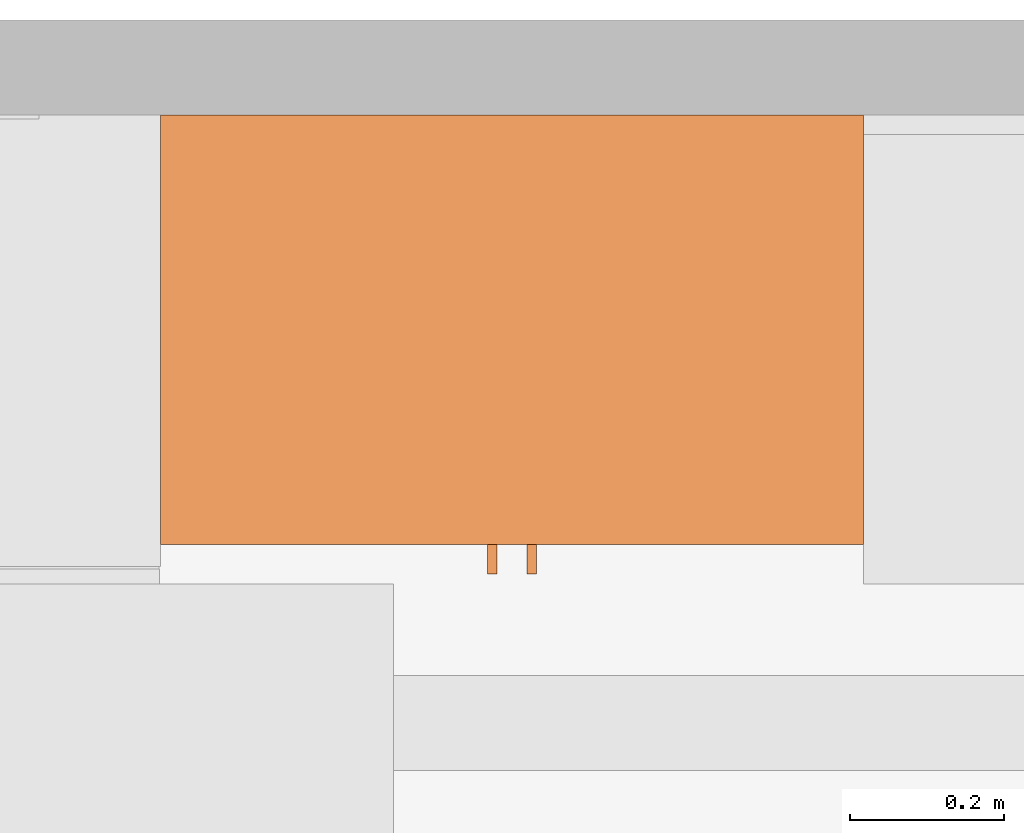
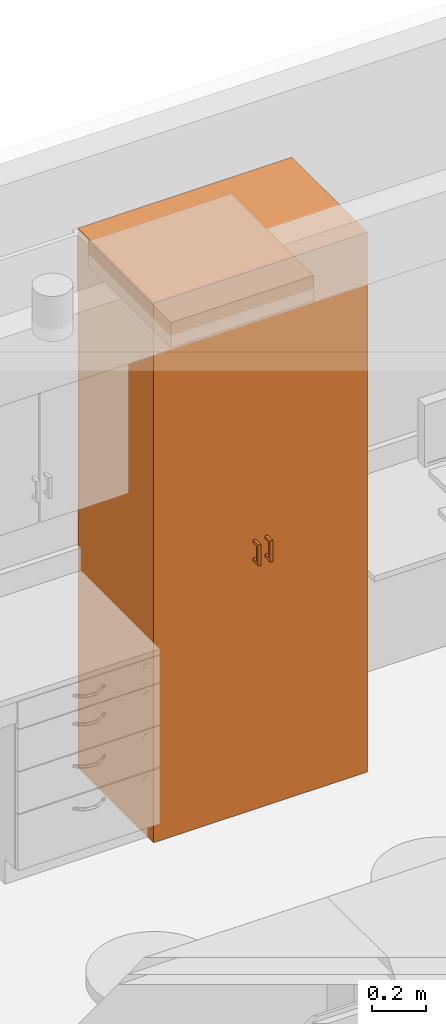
# One storey, part 7 of 8: 1 proxy.
"""IFC2X3 building model written with IfcOpenShell, lengths in feet."""

from ifc_helpers import new_model, entity, si_unit, converted_unit, derived_unit, direction, frame, origin, place, context, subcontext, project, spatial, faceted_brep, source, transform, mapped, material, material_list, type_object, type_shapes, element, save


model = new_model("IFC2X3")

# Units and contexts
model_context = context("Model", 3, precision=0.0001, world=origin(), true_north=direction((6.12303176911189e-17, 1.0)))
body_context = subcontext(model_context, "Body", "Model", "MODEL_VIEW")
ifc_project = project(units=[converted_unit("LENGTHUNIT", "FOOT", entity("IfcRatioMeasure", 0.3048), si_unit("LENGTHUNIT", "METRE"), dimensions=[1, 0, 0, 0, 0, 0, 0]), converted_unit("AREAUNIT", "SQUARE FOOT", entity("IfcRatioMeasure", 0.09290304), si_unit("AREAUNIT", "SQUARE_METRE"), dimensions=[2, 0, 0, 0, 0, 0, 0]), converted_unit("VOLUMEUNIT", "CUBIC FOOT", entity("IfcRatioMeasure", 0.028316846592), si_unit("VOLUMEUNIT", "CUBIC_METRE"), dimensions=[3, 0, 0, 0, 0, 0, 0]), converted_unit("PLANEANGLEUNIT", "DEGREE", entity("IfcRatioMeasure", 0.0174532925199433), si_unit("PLANEANGLEUNIT", "RADIAN"), dimensions=[0, 0, 0, 0, 0, 0, 0]), si_unit("MASSUNIT", "GRAM", prefix="KILO"), derived_unit("MASSDENSITYUNIT", [(si_unit("MASSUNIT", "GRAM", prefix="KILO"), 1), (si_unit("LENGTHUNIT", "METRE"), -3)]), si_unit("TIMEUNIT", "SECOND"), si_unit("FREQUENCYUNIT", "HERTZ"), si_unit("THERMODYNAMICTEMPERATUREUNIT", "DEGREE_CELSIUS"), derived_unit("THERMALTRANSMITTANCEUNIT", [(si_unit("MASSUNIT", "GRAM", prefix="KILO"), 1), (si_unit("THERMODYNAMICTEMPERATUREUNIT", "KELVIN"), -1), (si_unit("TIMEUNIT", "SECOND"), -3)]), derived_unit("VOLUMETRICFLOWRATEUNIT", [(si_unit("LENGTHUNIT", "METRE"), 3), (si_unit("TIMEUNIT", "SECOND"), -1)]), si_unit("ELECTRICCURRENTUNIT", "AMPERE"), si_unit("ELECTRICVOLTAGEUNIT", "VOLT"), si_unit("POWERUNIT", "WATT"), si_unit("FORCEUNIT", "NEWTON"), si_unit("ILLUMINANCEUNIT", "LUX"), si_unit("LUMINOUSFLUXUNIT", "LUMEN"), si_unit("LUMINOUSINTENSITYUNIT", "CANDELA"), derived_unit("USERDEFINED", [(si_unit("MASSUNIT", "GRAM", prefix="KILO"), -1), (si_unit("LENGTHUNIT", "METRE"), -2), (si_unit("TIMEUNIT", "SECOND"), 3), (si_unit("LUMINOUSFLUXUNIT", "LUMEN"), 1)]), derived_unit("LINEARVELOCITYUNIT", [(si_unit("LENGTHUNIT", "METRE"), 1), (si_unit("TIMEUNIT", "SECOND"), -1)]), si_unit("PRESSUREUNIT", "PASCAL"), derived_unit("USERDEFINED", [(si_unit("LENGTHUNIT", "METRE"), -2), (si_unit("MASSUNIT", "GRAM", prefix="KILO"), 1), (si_unit("TIMEUNIT", "SECOND"), -2)])], contexts=[model_context])

# Site, building, storey, space
site_placement = place(None, origin())
site = spatial("IfcSite", under=ifc_project, at=site_placement, Name="Default", CompositionType="ELEMENT")
building_placement = place(site_placement, origin())
building = spatial("IfcBuilding", under=site, at=building_placement, Name="EYE CLINIC:  OPTHALMOLOGY AND OPTOMETRY SERVICES (Ch. 233)", CompositionType="ELEMENT")
storey_placement = place(building_placement, origin())
storey = spatial("IfcBuildingStorey", under=building, at=storey_placement, Name="DATUM", CompositionType="ELEMENT", Elevation=0.0)
space_placement = place(storey_placement, origin())
space = spatial("IfcSpace", under=storey, at=space_placement, Name="(OPFD1)", CompositionType="ELEMENT", InteriorOrExteriorSpace="INTERNAL")

# Proxy
ifc_material_1 = material(Name="Glass")
ifc_material_2 = material(Name="Default metal")
ifc_material_3 = material(Name="EquipSpace")
ifc_material_list_1 = material_list([ifc_material_1, ifc_material_2, ifc_material_3])
ifc_material_list_2 = material_list([ifc_material_1, ifc_material_2, ifc_material_3])
building_element_proxy_type = type_object("IfcBuildingElementProxyType", Name="CW140 - Cabinet, Floor Standing, 5 SH, 2 GDO, ST, 98x36x22", PredefinedType="NOTDEFINED", material=ifc_material_list_2)
shared_shape = source(origin(), body_context, "Body", "Brep", [
    faceted_brep([(1.29166666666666, -0.916666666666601, 7.79166666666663), (0.208333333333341, -0.916666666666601, 7.79166666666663), (0.208333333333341, -0.916666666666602, 0.525714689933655), (1.29166666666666, -0.916666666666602, 0.525714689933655), (1.29166666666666, -0.895833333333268, 7.79166666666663), (0.208333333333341, -0.895833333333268, 7.79166666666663), (0.208333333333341, -0.895833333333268, 0.525714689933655), (1.29166666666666, -0.895833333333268, 0.525714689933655)], [[[0, 1, 2, 3]], [[1, 0, 4, 5]], [[2, 1, 5, 6]], [[3, 2, 6, 7]], [[0, 3, 7, 4]], [[4, 7, 6, 5]]]),
    faceted_brep([(-0.218750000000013, -0.895833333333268, 7.79166666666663), (-0.218750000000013, -0.895833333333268, 0.525714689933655), (-1.30208333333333, -0.895833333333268, 0.52571468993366), (-1.30208333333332, -0.895833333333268, 7.79166666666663), (-1.30208333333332, -0.916666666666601, 7.79166666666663), (-0.218750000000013, -0.916666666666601, 7.79166666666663), (-1.30208333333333, -0.916666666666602, 0.52571468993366), (-0.218750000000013, -0.916666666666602, 0.525714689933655)], [[[0, 1, 2, 3]], [[4, 5, 0, 3]], [[6, 4, 3, 2]], [[7, 6, 2, 1]], [[5, 7, 1, 0]], [[5, 4, 6, 7]]]),
    faceted_brep([(-0.0104166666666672, -0.916666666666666, 8.0), (-1.5, -0.916666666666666, 8.0), (-1.5, -0.916666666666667, 0.333333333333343), (-0.0104166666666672, -0.916666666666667, 0.333333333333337), (-0.218750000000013, -0.916666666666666, 7.79166666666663), (-0.218750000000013, -0.916666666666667, 0.541666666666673), (-1.30208333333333, -0.916666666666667, 0.541666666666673), (-1.30208333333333, -0.916666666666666, 7.79166666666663), (-0.0104166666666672, -0.854166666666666, 8.0), (-0.0104166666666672, -0.854166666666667, 0.333333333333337), (-1.5, -0.854166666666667, 0.333333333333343), (-1.5, -0.854166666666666, 8.0), (-0.218750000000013, -0.854166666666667, 0.541666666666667), (-0.218750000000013, -0.854166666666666, 7.79166666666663), (-1.30208333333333, -0.854166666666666, 7.79166666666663), (-1.30208333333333, -0.854166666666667, 0.541666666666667)], [[[0, 1, 2, 3], [4, 5, 6, 7]], [[8, 9, 10, 11], [12, 13, 14, 15]], [[1, 0, 8, 11]], [[2, 1, 11, 10]], [[3, 2, 10, 9]], [[0, 3, 9, 8]], [[4, 13, 12, 5]], [[6, 15, 14, 7]], [[5, 12, 15, 6]], [[13, 4, 7, 14]]]),
    faceted_brep([(1.5, -0.916666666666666, 8.0), (0.0104166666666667, -0.916666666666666, 8.0), (0.0104166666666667, -0.916666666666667, 0.333333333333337), (1.5, -0.916666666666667, 0.333333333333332), (1.29166666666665, -0.916666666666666, 7.79166666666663), (1.29166666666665, -0.916666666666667, 0.541666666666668), (0.208333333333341, -0.916666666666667, 0.541666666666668), (0.208333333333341, -0.916666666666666, 7.79166666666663), (1.5, -0.854166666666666, 8.0), (1.5, -0.854166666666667, 0.333333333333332), (0.0104166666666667, -0.854166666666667, 0.333333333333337), (0.0104166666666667, -0.854166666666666, 8.0), (1.29166666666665, -0.854166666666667, 0.541666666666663), (1.29166666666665, -0.854166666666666, 7.79166666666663), (0.208333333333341, -0.854166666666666, 7.79166666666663), (0.208333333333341, -0.854166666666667, 0.541666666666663)], [[[0, 1, 2, 3], [4, 5, 6, 7]], [[8, 9, 10, 11], [12, 13, 14, 15]], [[1, 0, 8, 11]], [[2, 1, 11, 10]], [[3, 2, 10, 9]], [[0, 3, 9, 8]], [[4, 13, 12, 5]], [[6, 15, 14, 7]], [[5, 12, 15, 6]], [[13, 4, 7, 14]]]),
    faceted_brep([(0.10367838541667, -1.04157362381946, 4.0), (0.103678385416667, -1.04157362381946, 3.68762405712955), (0.103678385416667, -0.916635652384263, 3.68762405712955), (0.103678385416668, -0.916635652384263, 3.72919115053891), (0.103678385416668, -1.00000653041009, 3.72919115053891), (0.10367838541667, -1.00000653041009, 3.95843290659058), (0.10367838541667, -0.916635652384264, 3.95843290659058), (0.10367838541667, -0.916635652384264, 4.0), (0.0629882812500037, -1.04157362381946, 4.0), (0.0629882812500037, -0.916635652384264, 4.0), (0.0629882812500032, -0.916635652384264, 3.95843290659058), (0.0629882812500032, -1.00000653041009, 3.95843290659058), (0.0629882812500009, -1.00000653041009, 3.72919115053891), (0.0629882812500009, -0.916635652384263, 3.72919115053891), (0.0629882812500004, -0.916635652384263, 3.68762405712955), (0.0629882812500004, -1.04157362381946, 3.68762405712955)], [[[0, 1, 2, 3, 4, 5, 6, 7]], [[8, 9, 10, 11, 12, 13, 14, 15]], [[1, 0, 8, 15]], [[2, 1, 15, 14]], [[3, 2, 14, 13]], [[4, 3, 13, 12]], [[5, 4, 12, 11]], [[6, 5, 11, 10]], [[7, 6, 10, 9]], [[0, 7, 9, 8]]]),
    faceted_brep([(1.4375, -0.854166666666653, 4.83333333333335), (1.4375, -0.854166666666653, 4.91666666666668), (-1.4375, -0.854166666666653, 4.91666666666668), (-1.4375, -0.854166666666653, 4.83333333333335), (1.4375, 0.854166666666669, 4.83333333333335), (-1.4375, 0.854166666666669, 4.83333333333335), (-1.4375, 0.854166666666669, 4.91666666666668), (1.4375, 0.854166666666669, 4.91666666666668)], [[[0, 1, 2, 3]], [[4, 5, 6, 7]], [[1, 0, 4, 7]], [[2, 1, 7, 6]], [[3, 2, 6, 5]], [[0, 3, 5, 4]]]),
    faceted_brep([(1.4375, -0.854166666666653, 6.16666666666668), (1.4375, -0.854166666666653, 6.25000000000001), (-1.4375, -0.854166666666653, 6.25000000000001), (-1.4375, -0.854166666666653, 6.16666666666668), (1.4375, 0.854166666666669, 6.16666666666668), (-1.4375, 0.854166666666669, 6.16666666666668), (-1.4375, 0.854166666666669, 6.25000000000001), (1.4375, 0.854166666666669, 6.25000000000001)], [[[0, 1, 2, 3]], [[4, 5, 6, 7]], [[1, 0, 4, 7]], [[2, 1, 7, 6]], [[3, 2, 6, 5]], [[0, 3, 5, 4]]]),
    faceted_brep([(1.43749999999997, -0.854166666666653, 3.83333333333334), (1.43749999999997, -0.854166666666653, 3.91666666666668), (-1.43750000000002, -0.854166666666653, 3.91666666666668), (-1.43750000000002, -0.854166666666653, 3.83333333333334), (1.43749999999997, 0.854166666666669, 3.83333333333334), (-1.43750000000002, 0.854166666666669, 3.83333333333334), (-1.43750000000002, 0.854166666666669, 3.91666666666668), (1.43749999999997, 0.854166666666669, 3.91666666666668)], [[[0, 1, 2, 3]], [[4, 5, 6, 7]], [[1, 0, 4, 7]], [[2, 1, 7, 6]], [[3, 2, 6, 5]], [[0, 3, 5, 4]]]),
    faceted_brep([(1.4375, -0.854166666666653, 2.62500000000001), (1.4375, -0.854166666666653, 2.70833333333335), (-1.4375, -0.854166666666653, 2.70833333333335), (-1.4375, -0.854166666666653, 2.62500000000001), (1.4375, 0.854166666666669, 2.62500000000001), (-1.4375, 0.854166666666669, 2.62500000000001), (-1.4375, 0.854166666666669, 2.70833333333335), (1.4375, 0.854166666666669, 2.70833333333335)], [[[0, 1, 2, 3]], [[4, 5, 6, 7]], [[1, 0, 4, 7]], [[2, 1, 7, 6]], [[3, 2, 6, 5]], [[0, 3, 5, 4]]]),
    faceted_brep([(1.43749999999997, -0.854166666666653, 1.54166666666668), (1.43749999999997, -0.854166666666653, 1.62500000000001), (-1.43750000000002, -0.854166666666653, 1.62500000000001), (-1.43750000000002, -0.854166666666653, 1.54166666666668), (1.43749999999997, 0.854166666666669, 1.54166666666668), (-1.43750000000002, 0.854166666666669, 1.54166666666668), (-1.43750000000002, 0.854166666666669, 1.62500000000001), (1.43749999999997, 0.854166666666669, 1.62500000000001)], [[[0, 1, 2, 3]], [[4, 5, 6, 7]], [[1, 0, 4, 7]], [[2, 1, 7, 6]], [[3, 2, 6, 5]], [[0, 3, 5, 4]]]),
    faceted_brep([(-1.5, 0.916666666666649, 8.0), (-1.5, 0.0, 8.0), (-1.5, -0.916666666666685, 8.0), (1.5, -0.916666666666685, 8.0), (1.5, 0.916666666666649, 8.0), (-1.5, 0.916666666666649, 0.0), (1.5, 0.916666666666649, 0.0), (1.5, -0.916666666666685, 0.0), (-1.5, -0.916666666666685, 0.0), (-1.5, 0.0, 0.0), (1.29166666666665, -0.916666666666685, 7.79166666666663), (1.29166666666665, -0.916666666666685, 0.541666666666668), (0.208333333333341, -0.916666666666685, 0.541666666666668), (0.208333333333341, -0.916666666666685, 7.79166666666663), (-0.218750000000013, -0.916666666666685, 7.79166666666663), (-0.218750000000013, -0.916666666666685, 0.541666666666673), (-1.30208333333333, -0.916666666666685, 0.541666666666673), (-1.30208333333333, -0.916666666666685, 7.79166666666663), (1.29166666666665, -0.8541666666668, 7.79166666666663), (1.29166666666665, -0.8541666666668, 0.541666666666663), (0.208333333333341, -0.8541666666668, 0.541666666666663), (0.208333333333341, -0.8541666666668, 7.79166666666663), (-0.218750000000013, -0.854166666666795, 7.79166666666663), (-0.218750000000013, -0.854166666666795, 0.541666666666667), (-1.30208333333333, -0.854166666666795, 0.541666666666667), (-1.30208333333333, -0.854166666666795, 7.79166666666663)], [[[0, 1, 2, 3, 4]], [[5, 6, 7, 8, 9]], [[1, 0, 5, 9]], [[2, 1, 9, 8]], [[3, 2, 8, 7], [10, 11, 12, 13], [14, 15, 16, 17]], [[4, 3, 7, 6]], [[0, 4, 6, 5]], [[10, 18, 19, 11]], [[12, 20, 21, 13]], [[11, 19, 20, 12]], [[19, 18, 21, 20]], [[18, 10, 13, 21]], [[14, 22, 23, 15]], [[16, 24, 25, 17]], [[15, 23, 24, 16]], [[23, 22, 25, 24]], [[22, 14, 17, 25]]]),
    faceted_brep([(-1.4375, 0.854166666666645, 7.93012287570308), (-1.4375, -0.854166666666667, 7.93012287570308), (-1.4375, -0.854166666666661, 0.333333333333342), (-1.4375, 0.854166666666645, 0.333333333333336), (-1.5, 0.854166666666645, 7.93012287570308), (-1.5, 0.854166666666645, 0.333333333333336), (-1.5, -0.854166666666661, 0.333333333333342), (-1.5, -0.854166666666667, 7.93012287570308)], [[[0, 1, 2, 3]], [[4, 5, 6, 7]], [[1, 0, 4, 7]], [[2, 1, 7, 6]], [[3, 2, 6, 5]], [[0, 3, 5, 4]]]),
    faceted_brep([(-1.4375, 0.854166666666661, 0.33333333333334), (-1.4375, -0.666666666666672, 0.33333333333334), (-1.4375, -0.666666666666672, 0.0), (-1.4375, 0.854166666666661, 0.0), (-1.5, 0.854166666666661, 0.33333333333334), (-1.5, 0.854166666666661, 0.0), (-1.5, -0.666666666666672, 0.0), (-1.5, -0.666666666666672, 0.33333333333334)], [[[0, 1, 2, 3]], [[4, 5, 6, 7]], [[1, 0, 4, 7]], [[2, 1, 7, 6]], [[3, 2, 6, 5]], [[0, 3, 5, 4]]]),
    faceted_brep([(1.50000000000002, 0.854166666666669, 0.333333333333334), (1.50000000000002, -0.666666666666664, 0.333333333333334), (1.50000000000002, -0.666666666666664, 0.0), (1.50000000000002, 0.854166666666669, 0.0), (1.43750000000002, 0.854166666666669, 0.333333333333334), (1.43750000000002, 0.854166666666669, 0.0), (1.43750000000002, -0.666666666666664, 0.0), (1.43750000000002, -0.666666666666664, 0.333333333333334)], [[[0, 1, 2, 3]], [[4, 5, 6, 7]], [[1, 0, 4, 7]], [[2, 1, 7, 6]], [[3, 2, 6, 5]], [[0, 3, 5, 4]]]),
    faceted_brep([(1.5, 0.854166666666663, 7.9301228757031), (1.5, -0.85416666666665, 7.9301228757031), (1.5, -0.854166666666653, 0.333333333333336), (1.5, 0.854166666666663, 0.333333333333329), (1.4375, 0.854166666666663, 7.9301228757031), (1.4375, 0.854166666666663, 0.333333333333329), (1.4375, -0.854166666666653, 0.333333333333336), (1.4375, -0.85416666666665, 7.9301228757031)], [[[0, 1, 2, 3]], [[4, 5, 6, 7]], [[1, 0, 4, 7]], [[2, 1, 7, 6]], [[3, 2, 6, 5]], [[0, 3, 5, 4]]]),
    faceted_brep([(-0.10367838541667, -1.04157362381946, 4.0), (-0.10367838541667, -0.916635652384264, 4.0), (-0.10367838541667, -0.916635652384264, 3.95843290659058), (-0.10367838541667, -1.00000653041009, 3.95843290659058), (-0.103678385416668, -1.00000653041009, 3.72919115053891), (-0.103678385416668, -0.916635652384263, 3.72919115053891), (-0.103678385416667, -0.916635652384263, 3.68762405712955), (-0.103678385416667, -1.04157362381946, 3.68762405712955), (-0.0629882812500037, -1.04157362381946, 4.0), (-0.0629882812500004, -1.04157362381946, 3.68762405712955), (-0.0629882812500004, -0.916635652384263, 3.68762405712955), (-0.0629882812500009, -0.916635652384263, 3.72919115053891), (-0.0629882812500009, -1.00000653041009, 3.72919115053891), (-0.0629882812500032, -1.00000653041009, 3.95843290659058), (-0.0629882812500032, -0.916635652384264, 3.95843290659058), (-0.0629882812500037, -0.916635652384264, 4.0)], [[[0, 1, 2, 3, 4, 5, 6, 7]], [[8, 9, 10, 11, 12, 13, 14, 15]], [[0, 7, 9, 8]], [[7, 6, 10, 9]], [[6, 5, 11, 10]], [[5, 4, 12, 11]], [[4, 3, 13, 12]], [[3, 2, 14, 13]], [[2, 1, 15, 14]], [[1, 0, 8, 15]]]),
    faceted_brep([(-1.5, 0.854166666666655, 8.0), (-1.5, 0.854166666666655, 0.0), (1.5, 0.854166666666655, 0.0), (1.5, 0.854166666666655, 8.0), (-1.5, 0.916666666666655, 8.0), (1.5, 0.916666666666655, 8.0), (1.5, 0.916666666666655, 0.0), (-1.5, 0.916666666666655, 0.0)], [[[0, 1, 2, 3]], [[4, 5, 6, 7]], [[1, 0, 4, 7]], [[2, 1, 7, 6]], [[3, 2, 6, 5]], [[0, 3, 5, 4]]]),
    faceted_brep([(1.4375, -0.854166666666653, 0.333333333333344), (1.4375, -0.854166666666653, 0.416666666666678), (-1.4375, -0.854166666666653, 0.416666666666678), (-1.4375, -0.854166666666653, 0.333333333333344), (1.4375, 0.854166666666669, 0.333333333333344), (-1.4375, 0.854166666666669, 0.333333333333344), (-1.4375, 0.854166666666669, 0.416666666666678), (1.4375, 0.854166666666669, 0.416666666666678)], [[[0, 1, 2, 3]], [[4, 5, 6, 7]], [[1, 0, 4, 7]], [[2, 1, 7, 6]], [[3, 2, 6, 5]], [[0, 3, 5, 4]]]),
    faceted_brep([(1.5, -0.60416666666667, 0.333333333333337), (1.5, -0.666666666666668, 0.333333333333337), (1.5, -0.666666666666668, 0.0), (1.5, -0.60416666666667, 0.0), (-1.5, -0.60416666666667, 0.333333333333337), (-1.5, -0.60416666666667, 0.0), (-1.5, -0.666666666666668, 0.0), (-1.5, -0.666666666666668, 0.333333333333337)], [[[0, 1, 2, 3]], [[4, 5, 6, 7]], [[1, 0, 4, 7]], [[2, 1, 7, 6]], [[3, 2, 6, 5]], [[0, 3, 5, 4]]]),
])
type_shapes(building_element_proxy_type, [shared_shape])
proxy_placement = place(space_placement, frame((386.070106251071, 10.8126195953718, 0.0)))
element("IfcBuildingElementProxy", 1, at=proxy_placement, inside=space, type_object=building_element_proxy_type, material=ifc_material_list_1, Name="CW140 - Cabinet, Floor Standing, 5 SH, 2 GDO, ST, 98x36x22:CW140 - Cabinet, Floor Standing, 5 SH, 2 GDO, ST, 98x36x22", ObjectType="CW140 - Cabinet, Floor Standing, 5 SH, 2 GDO, ST, 98x36x22", context=body_context, shape_type="MappedRepresentation", body=[
    mapped(shared_shape, transform((0.0, 0.0, 0.0), scale=1.0)),
])

save(model, "model.ifc")
